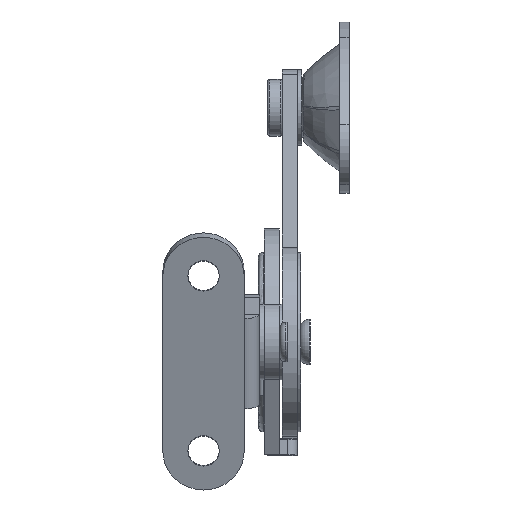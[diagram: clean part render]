
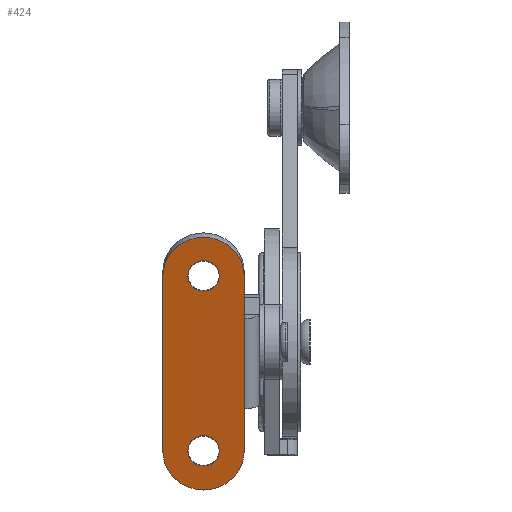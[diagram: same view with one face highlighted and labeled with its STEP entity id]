
A CAD part, left-side view. The second image highlights one B-rep face of the part: STEP entity #424.
In plain terms, the highlighted planar face has unit normal (-0.954, 0, -0.3) as drawn and (0, -1, 0) by its records, which use the part's own axes.
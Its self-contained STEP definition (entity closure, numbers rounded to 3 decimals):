
#172=CARTESIAN_POINT('',(9.7,0.0,1.65));
#173=VERTEX_POINT('',#172);
#174=CARTESIAN_POINT('',(9.7,0.0,0.0));
#175=DIRECTION('',(0.0,1.0,0.0));
#176=DIRECTION('',(0.0,0.0,1.0));
#177=AXIS2_PLACEMENT_3D('',#174,#175,#176);
#178=CIRCLE('',#177,1.65);
#179=EDGE_CURVE('',#173,#173,#178,.T.);
#192=CARTESIAN_POINT('',(-9.7,0.0,1.65));
#193=VERTEX_POINT('',#192);
#194=CARTESIAN_POINT('',(-9.7,0.0,0.0));
#195=DIRECTION('',(0.0,1.0,0.0));
#196=DIRECTION('',(0.0,0.0,1.0));
#197=AXIS2_PLACEMENT_3D('',#194,#195,#196);
#198=CIRCLE('',#197,1.65);
#199=EDGE_CURVE('',#193,#193,#198,.T.);
#212=CARTESIAN_POINT('',(-5.,0.,-4.3));
#213=VERTEX_POINT('',#212);
#222=CARTESIAN_POINT('',(-9.7,0.0,-4.3));
#223=VERTEX_POINT('',#222);
#224=CARTESIAN_POINT('',(-5.,0.,-4.3));
#225=DIRECTION('',(-1.0,0.0,0.0));
#226=VECTOR('',#225,4.7);
#227=LINE('',#224,#226);
#228=EDGE_CURVE('',#213,#223,#227,.T.);
#252=CARTESIAN_POINT('',(-9.7,0.0,4.3));
#253=VERTEX_POINT('',#252);
#254=CARTESIAN_POINT('',(-9.7,0.0,0.0));
#255=DIRECTION('',(0.0,1.0,0.0));
#256=DIRECTION('',(0.0,0.0,1.0));
#257=AXIS2_PLACEMENT_3D('',#254,#255,#256);
#258=CIRCLE('',#257,4.3);
#259=EDGE_CURVE('',#223,#253,#258,.T.);
#285=CARTESIAN_POINT('',(9.7,0.0,4.3));
#286=VERTEX_POINT('',#285);
#287=CARTESIAN_POINT('',(-9.7,0.0,4.3));
#288=DIRECTION('',(1.0,0.0,0.0));
#289=VECTOR('',#288,19.4);
#290=LINE('',#287,#289);
#291=EDGE_CURVE('',#253,#286,#290,.T.);
#316=CARTESIAN_POINT('',(9.7,0.0,-4.3));
#317=VERTEX_POINT('',#316);
#318=CARTESIAN_POINT('',(9.7,0.0,0.0));
#319=DIRECTION('',(0.0,1.0,0.0));
#320=DIRECTION('',(0.0,0.0,1.0));
#321=AXIS2_PLACEMENT_3D('',#318,#319,#320);
#322=CIRCLE('',#321,4.3);
#323=EDGE_CURVE('',#286,#317,#322,.T.);
#349=CARTESIAN_POINT('',(5.,0.,-4.3));
#350=VERTEX_POINT('',#349);
#351=CARTESIAN_POINT('',(9.7,0.0,-4.3));
#352=DIRECTION('',(-1.0,0.0,0.0));
#353=VECTOR('',#352,4.7);
#354=LINE('',#351,#353);
#355=EDGE_CURVE('',#317,#350,#354,.T.);
#400=CARTESIAN_POINT('',(-9.7,0.0,0.0));
#401=DIRECTION('',(0.0,1.0,0.0));
#402=DIRECTION('',(0.0,0.0,1.0));
#403=AXIS2_PLACEMENT_3D('',#400,#401,#402);
#404=PLANE('',#403);
#405=ORIENTED_EDGE('',*,*,#259,.F.);
#406=ORIENTED_EDGE('',*,*,#228,.F.);
#407=CARTESIAN_POINT('',(5.,0.,-4.3));
#408=DIRECTION('',(-1.0,0.0,0.0));
#409=VECTOR('',#408,10.);
#410=LINE('',#407,#409);
#411=EDGE_CURVE('',#350,#213,#410,.T.);
#412=ORIENTED_EDGE('',*,*,#411,.F.);
#413=ORIENTED_EDGE('',*,*,#355,.F.);
#414=ORIENTED_EDGE('',*,*,#323,.F.);
#415=ORIENTED_EDGE('',*,*,#291,.F.);
#416=EDGE_LOOP('',(#405,#406,#412,#413,#414,#415));
#417=FACE_OUTER_BOUND('',#416,.T.);
#418=ORIENTED_EDGE('',*,*,#199,.T.);
#419=EDGE_LOOP('',(#418));
#420=FACE_BOUND('',#419,.T.);
#421=ORIENTED_EDGE('',*,*,#179,.T.);
#422=EDGE_LOOP('',(#421));
#423=FACE_BOUND('',#422,.T.);
#424=ADVANCED_FACE('',(#417,#420,#423),#404,.F.);
